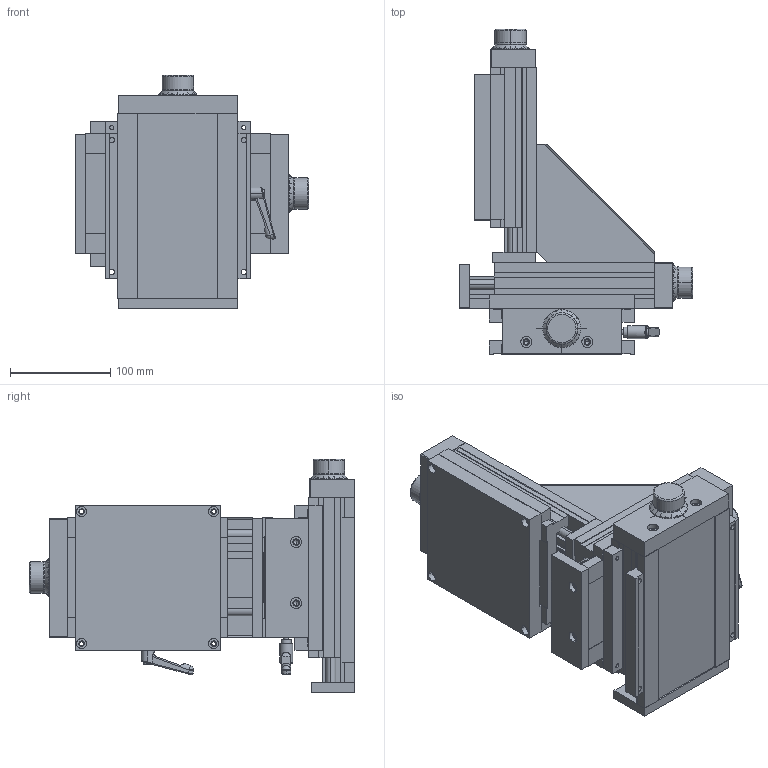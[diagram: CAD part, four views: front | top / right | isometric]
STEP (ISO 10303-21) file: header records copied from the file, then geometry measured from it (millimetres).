
FILE_DESCRIPTION (( 'STEP AP203' ), '1' );
FILE_NAME ('dL 120 XYZ.STEP', '2001-10-08T14:12:52', ( '' ), ( '' ), 'SwSTEP 2.0', 'SolidWorks 2001239', '' );
FILE_SCHEMA (( 'CONFIG_CONTROL_DESIGN' ));
Length unit declared in the file: millimetre
Products named in the file (11): X-Z Verbindung dL120-+-D005510_ ; dL 120-+-D013217_ ; Aussenteil neu 120 light-+-D005509_ ; dL 120 light-+-D013323_ ; Klemmhebel-+-D006684_ ; Montageplatte M120-+-D005512_ ; dL 120 XYZ; X-Y dL120-+-D005594_ ; Klemmleiste ge. 120-+-D005592_ ; Befestigung  X-Y dL120-+-D005595_ ; Klemmleiste Se. 120-+-D005589_ 
Assembly tree (16 placements, depth 3):
  dL 120 XYZ
    dL 120-+-D013217_   x3
      dL 120 light-+-D013323_ 
      Klemmhebel-+-D006684_ 
      Aussenteil neu 120 light-+-D005509_ 
    Befestigung  X-Y dL120-+-D005595_ 
      Klemmleiste Se. 120-+-D005589_   x2
    X-Y dL120-+-D005594_ 
      Klemmleiste ge. 120-+-D005592_   x2
      Klemmleiste Se. 120-+-D005589_   x2
    X-Z Verbindung dL120-+-D005510_ 
    Montageplatte M120-+-D005512_ 
Bounding box: 233.25 x 325.25 x 233.25 mm (x, y, z)
Volume: 3630479.8 mm3; surface area: 758605 mm2
Topology: 17 solids, 20 shells, 1321 faces, 3435 edges, 2205 vertices
Faces by surface type: plane 783, cylinder 343, cone 105, bspline 72, torus 12, sphere 6
Entity records: 21052 total; most frequent: CARTESIAN_POINT 7446, ORIENTED_EDGE 2610, DIRECTION 2454, EDGE_CURVE 1305, LINE 872, VECTOR 872, VERTEX_POINT 847, AXIS2_PLACEMENT_3D 791
